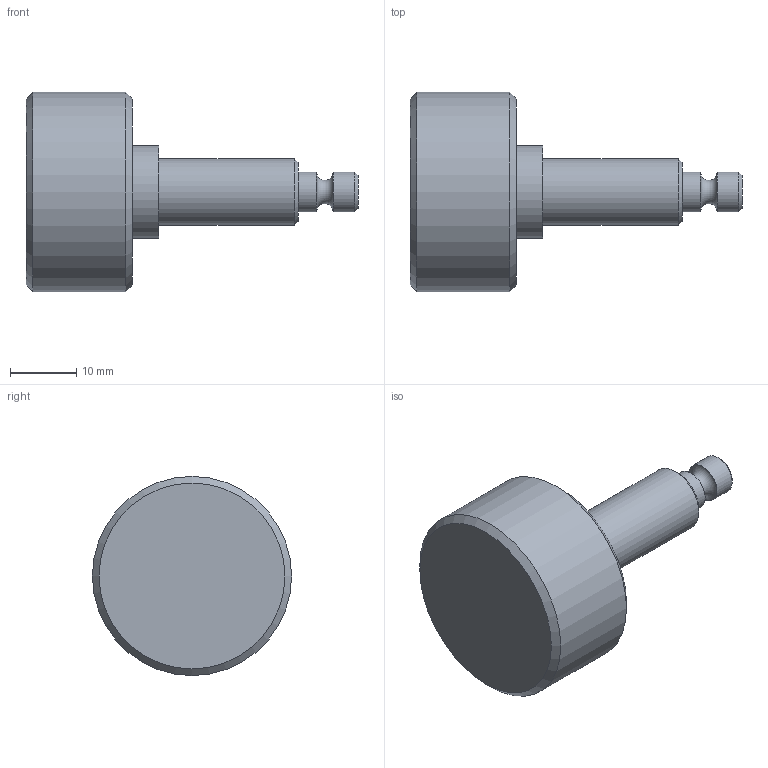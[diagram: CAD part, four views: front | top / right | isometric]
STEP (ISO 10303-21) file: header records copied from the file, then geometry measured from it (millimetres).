
FILE_DESCRIPTION(/* description */ (''),/* implementation_level */ '2;1');
FILE_NAME(/* name */ '',/* time_stamp */ '2025-02-05T13:54:12+09:00',/* author */ ('jhkim'),/* organization */ (''),/* preprocessor_version */ 'ST-DEVELOPER v20',/* originating_system */ 'Autodesk Inventor 2025',/* authorisation */ '');
FILE_SCHEMA (('AUTOMOTIVE_DESIGN { 1 0 10303 214 3 1 1 }'));
Length unit declared in the file: millimetre
Products named in the file (1): 노브
Bounding box: 50 x 30 x 30 mm (x, y, z)
Volume: 13691.4 mm3; surface area: 3803.9 mm2
Topology: 1 solids, 1 shells, 15 faces, 27 edges, 17 vertices
Faces by surface type: cylinder 5, plane 5, cone 4, torus 1
Full cylindrical faces by diameter (mm): 6 x2, 10 x1, 14 x1, 30 x1
Entity records: 426 total; most frequent: DIRECTION 77, CARTESIAN_POINT 60, ORIENTED_EDGE 54, AXIS2_PLACEMENT_3D 34, EDGE_CURVE 27, EDGE_LOOP 18, CIRCLE 18, VERTEX_POINT 17
